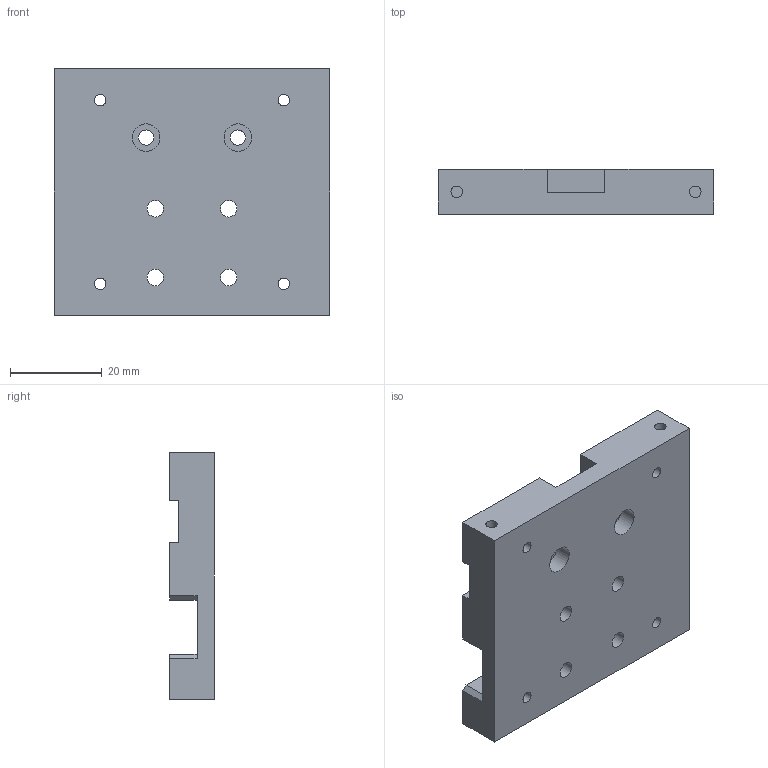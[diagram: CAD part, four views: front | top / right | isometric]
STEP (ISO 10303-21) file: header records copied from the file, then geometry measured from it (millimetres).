
FILE_DESCRIPTION(/* description */ (''),/* implementation_level */ '2;1');
FILE_NAME(/* name */ 'C:/#Projekte/Linear-Motor/STEP/Carriage.step',/* time_stamp */ '2019-01-06T11:23:07+01:00',/* author */ (''),/* organization */ (''),/* preprocessor_version */ 'ST-DEVELOPER v17.2',/* originating_system */ 'Autodesk Translation Framework v7.6.0.251',/* authorisation */ '');
FILE_SCHEMA (('AUTOMOTIVE_DESIGN { 1 0 10303 214 3 1 1 }'));
Length unit declared in the file: millimetre
Products named in the file (1): Aktor_2
Bounding box: 60 x 9.8 x 53.7 mm (x, y, z)
Volume: 20725.1 mm3; surface area: 10307.6 mm2
Topology: 1 solids, 1 shells, 80 faces, 219 edges, 147 vertices
Faces by surface type: plane 44, cylinder 20, bspline 16
Full cylindrical faces by diameter (mm): 2.5 x8, 3.6 x4, 6 x2
Entity records: 2734 total; most frequent: CARTESIAN_POINT 683, ORIENTED_EDGE 438, DIRECTION 360, EDGE_CURVE 219, VERTEX_POINT 147, LINE 144, VECTOR 144, AXIS2_PLACEMENT_3D 108
